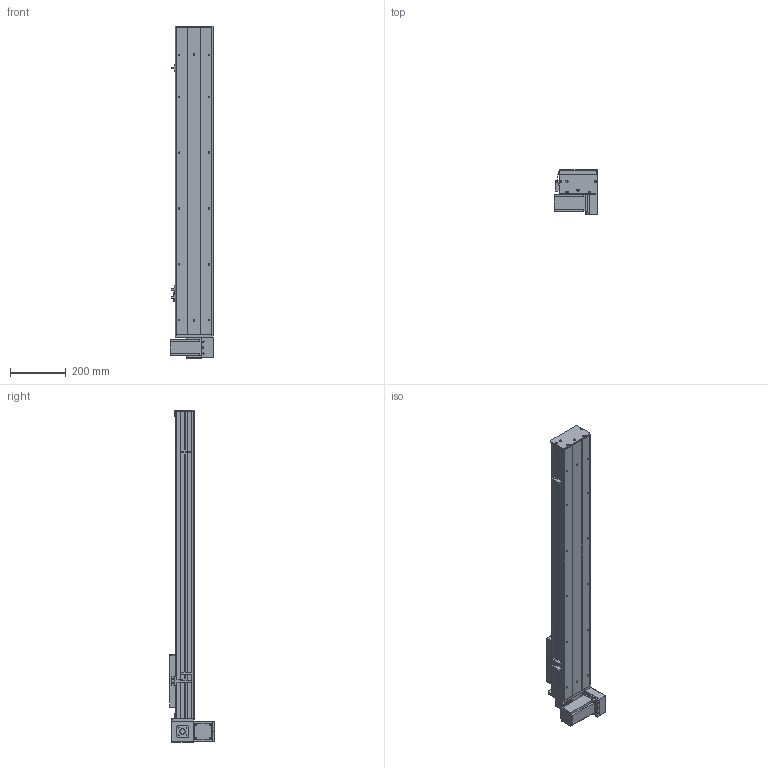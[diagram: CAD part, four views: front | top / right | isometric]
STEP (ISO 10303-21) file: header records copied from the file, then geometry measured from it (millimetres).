
FILE_DESCRIPTION (( 'STEP AP203' ), '1' );
FILE_NAME ('Y135CB-D90-S800-BM-P400W.STEP', '2020-02-19T01:04:39', ( '微软用户' ), ( '微软中国' ), 'SwSTEP 2.0', 'SolidWorks 2017', '' );
FILE_SCHEMA (( 'CONFIG_CONTROL_DESIGN' ));
Length unit declared in the file: millimetre
Products named in the file (18): 5C--俋欶; 0B-源倛裔啣; C-雄赽釱--; 0B-萇儂楊擘啣; Y10B--々湍喘謫眊--666; san松下电机400不带刹车----; 00B-俋欶BM--; 5CB --掛极耜裔啣-; Y10B-耜蚾蟀諉啣----; C-詩湍揤踡え-陔; Y135CB-耜裔; Y135CB-D90-S800-BM-P400W; 135CB--詩湍-CE; 135CB---遴掛极.-; Y100-135俋离換覜ん--; 35CB---喘謫眊楊擘啣; Y135C-陔俋离換覜結え-; 0B-埴倛裔啣
Assembly tree (21 placements, depth 2):
  Y135CB-D90-S800-BM-P400W
    Y135CB-耜裔
    135CB---遴掛极.-
    35CB---喘謫眊楊擘啣
    0B-埴倛裔啣
    0B-源倛裔啣
    0B-萇儂楊擘啣
    san松下电机400不带刹车----
    5CB --掛极耜裔啣-  x2
    C-詩湍揤踡え-陔  x2
    135CB--詩湍-CE
    Y100-135俋离換覜ん--  x3
    Y135C-陔俋离換覜結え-
    5C--俋欶
    C-雄赽釱--
    Y10B--々湍喘謫眊--666
    00B-俋欶BM--
    Y10B-耜蚾蟀諉啣----
Bounding box: 157 x 163.3 x 1188 mm (x, y, z)
Volume: 3867070.4 mm3; surface area: 1507715.5 mm2
Topology: 21 solids, 21 shells, 941 faces, 2509 edges, 1662 vertices
Faces by surface type: cylinder 469, plane 456, cone 16
Entity records: 29147 total; most frequent: DIRECTION 4841, CARTESIAN_POINT 4768, ORIENTED_EDGE 4494, EDGE_CURVE 2247, AXIS2_PLACEMENT_3D 1763, VERTEX_POINT 1490, VECTOR 1315, LINE 1315
